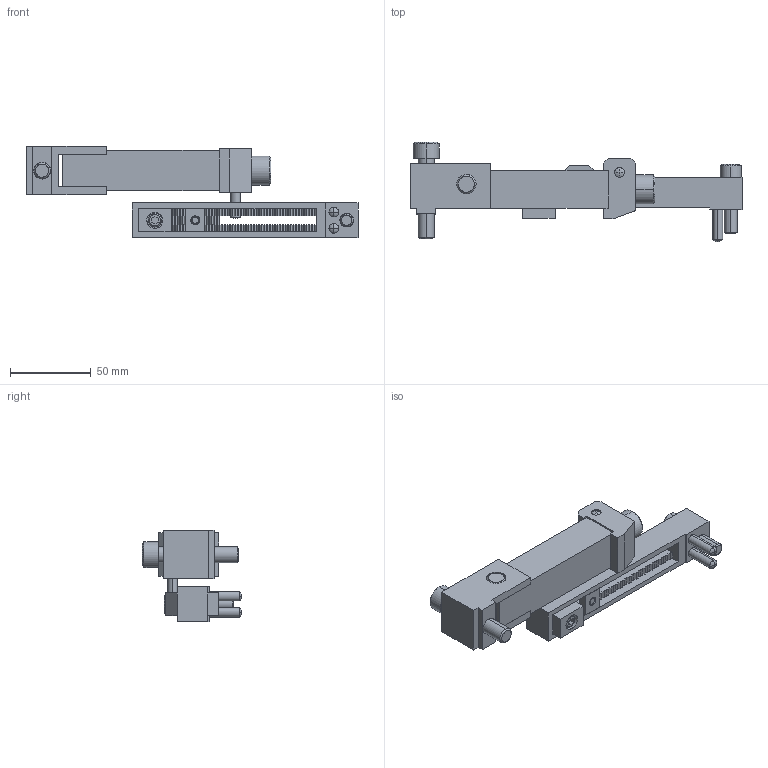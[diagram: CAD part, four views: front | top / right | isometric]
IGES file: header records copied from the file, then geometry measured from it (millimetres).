
Start section: START RECORD GO HERE.
Global section: file name: BOX140R.igs; native system: DASSAULT SYSTEMES CATIA V5 R20 - www.3ds.com; preprocessor: CATIA Version 5 Release 20 ; author: Utente; organization: NB04-ASUS; date: 20210221.175440; units: millimetre
Bounding box: 206 x 61.67 x 56.5 mm (x, y, z)
Surface area: 61959.5 mm2 (no closed solid volume)
Topology: 0 solids, 0 shells, 790 faces, 4602 edges, 4576 vertices
Faces by surface type: plane 668, revolution 122
